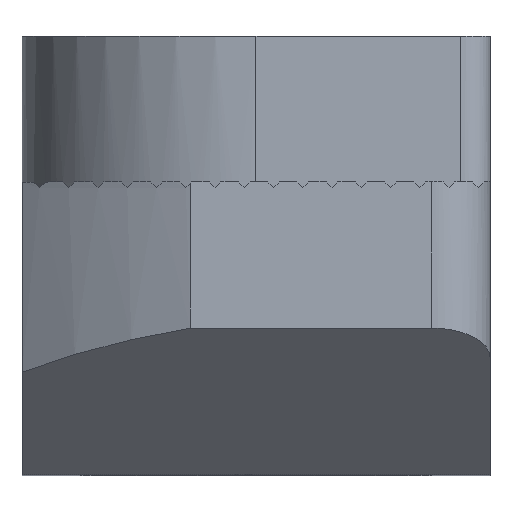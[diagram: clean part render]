
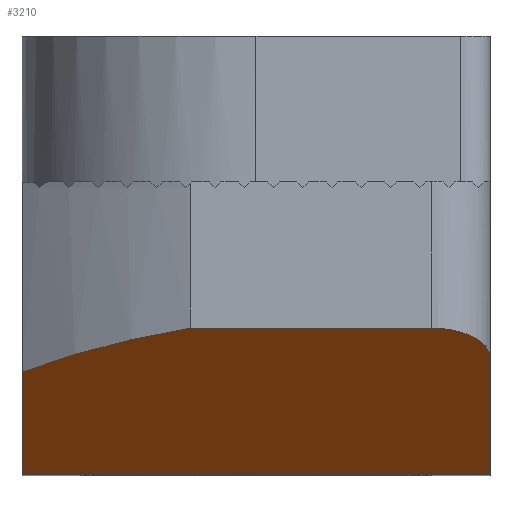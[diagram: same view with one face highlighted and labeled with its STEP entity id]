
A CAD part, top view. The second image highlights one B-rep face of the part: STEP entity #3210.
In plain terms, the highlighted planar face has unit normal (0, -0.894, 0.447).
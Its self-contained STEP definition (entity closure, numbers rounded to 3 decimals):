
#94 = ORIENTED_EDGE ( 'NONE', *, *, #3807, .T. ) ;
#107 = CARTESIAN_POINT ( 'NONE',  ( -4., -2.5, 9.5 ) ) ;
#181 = DIRECTION ( 'NONE',  ( 1., 0., 0. ) ) ;
#329 = DIRECTION ( 'NONE',  ( 0., 0.447, 0.894 ) ) ;
#424 = CARTESIAN_POINT ( 'NONE',  ( -1.122, -2.5, 9.5 ) ) ;
#506 = AXIS2_PLACEMENT_3D ( 'NONE', #649, #2265, #329 ) ;
#648 = EDGE_CURVE ( 'NONE', #3941, #2384, #1041, .T. ) ;
#649 = CARTESIAN_POINT ( 'NONE',  ( -4., -2.5, 9.5 ) ) ;
#702 = ORIENTED_EDGE ( 'NONE', *, *, #1306, .F. ) ;
#728 = CARTESIAN_POINT ( 'NONE',  ( -1.122, -2.5, 9.5 ) ) ;
#745 = VERTEX_POINT ( 'NONE', #1824 ) ;
#890 = CARTESIAN_POINT ( 'NONE',  ( 4., -3., 8.5 ) ) ;
#982 = EDGE_CURVE ( 'NONE', #2589, #2384, #2943, .T. ) ;
#996 = VECTOR ( 'NONE', #2070, 1000. ) ;
#1041 = LINE ( 'NONE', #107, #996 ) ;
#1105 = LINE ( 'NONE', #2876, #1170 ) ;
#1170 = VECTOR ( 'NONE', #3207, 1000. ) ;
#1245 = EDGE_CURVE ( 'NONE', #745, #2506, #3796, .T. ) ;
#1306 = EDGE_CURVE ( 'NONE', #745, #1326, #3602, .T. ) ;
#1326 = VERTEX_POINT ( 'NONE', #2181 ) ;
#1531 = ORIENTED_EDGE ( 'NONE', *, *, #982, .T. ) ;
#1535 = EDGE_CURVE ( 'NONE', #1326, #3941, #2658, .T. ) ;
#1824 = CARTESIAN_POINT ( 'NONE',  ( -4., -5., 4.5 ) ) ;
#1854 = CARTESIAN_POINT ( 'NONE',  ( -4., -2.5, 9.5 ) ) ;
#2018 = CARTESIAN_POINT ( 'NONE',  ( -3.127, -2.923, 8.655 ) ) ;
#2055 = CARTESIAN_POINT ( 'NONE',  ( 3., -2.5, 9.5 ) ) ;
#2070 = DIRECTION ( 'NONE',  ( 1., 0., 0. ) ) ;
#2151 = DIRECTION ( 'NONE',  ( 0., 0.447, 0.894 ) ) ;
#2181 = CARTESIAN_POINT ( 'NONE',  ( -4., -3.25, 8. ) ) ;
#2265 = DIRECTION ( 'NONE',  ( 0., 0.894, -0.447 ) ) ;
#2322 = CARTESIAN_POINT ( 'NONE',  ( -4., -3.25, 8. ) ) ;
#2324 = ORIENTED_EDGE ( 'NONE', *, *, #1535, .F. ) ;
#2384 = VERTEX_POINT ( 'NONE', #3868 ) ;
#2440 = CARTESIAN_POINT ( 'NONE',  ( -4., -5., 4.5 ) ) ;
#2506 = VERTEX_POINT ( 'NONE', #2696 ) ;
#2589 = VERTEX_POINT ( 'NONE', #890 ) ;
#2637 = CARTESIAN_POINT ( 'NONE',  ( -2.159, -2.67, 9.159 ) ) ;
#2658 =( BOUNDED_CURVE ( )  B_SPLINE_CURVE ( 3, ( #2322, #2018, #2637, #728 ),
 .UNSPECIFIED., .F., .F. ) 
 B_SPLINE_CURVE_WITH_KNOTS ( ( 4, 4 ),
 ( 5.64, 5.966 ),
 .UNSPECIFIED. ) 
 CURVE ( )  GEOMETRIC_REPRESENTATION_ITEM ( )  RATIONAL_B_SPLINE_CURVE ( ( 1., 0.991, 0.991, 1. ) ) 
 REPRESENTATION_ITEM ( '' )  );
#2681 = FACE_OUTER_BOUND ( 'NONE', #3670, .T. ) ;
#2696 = CARTESIAN_POINT ( 'NONE',  ( 4., -5., 4.5 ) ) ;
#2876 = CARTESIAN_POINT ( 'NONE',  ( 4., -2.5, 9.5 ) ) ;
#2943 =( BOUNDED_CURVE ( )  B_SPLINE_CURVE ( 3, ( #3612, #3294, #3932, #2055 ),
 .UNSPECIFIED., .F., .F. ) 
 B_SPLINE_CURVE_WITH_KNOTS ( ( 4, 4 ),
 ( 4.712, 6.283 ),
 .UNSPECIFIED. ) 
 CURVE ( )  GEOMETRIC_REPRESENTATION_ITEM ( )  RATIONAL_B_SPLINE_CURVE ( ( 1., 0.805, 0.805, 1. ) ) 
 REPRESENTATION_ITEM ( '' )  );
#3207 = DIRECTION ( 'NONE',  ( 0., 0.447, 0.894 ) ) ;
#3210 = ADVANCED_FACE ( 'NONE', ( #2681 ), #4142, .F. ) ;
#3294 = CARTESIAN_POINT ( 'NONE',  ( 4., -2.707, 9.086 ) ) ;
#3349 = ORIENTED_EDGE ( 'NONE', *, *, #648, .F. ) ;
#3474 = ORIENTED_EDGE ( 'NONE', *, *, #1245, .T. ) ;
#3597 = VECTOR ( 'NONE', #2151, 1000. ) ;
#3602 = LINE ( 'NONE', #1854, #3597 ) ;
#3612 = CARTESIAN_POINT ( 'NONE',  ( 4., -3., 8.5 ) ) ;
#3670 = EDGE_LOOP ( 'NONE', ( #94, #1531, #3349, #2324, #702, #3474 ) ) ;
#3755 = VECTOR ( 'NONE', #181, 1000. ) ;
#3796 = LINE ( 'NONE', #2440, #3755 ) ;
#3807 = EDGE_CURVE ( 'NONE', #2506, #2589, #1105, .T. ) ;
#3868 = CARTESIAN_POINT ( 'NONE',  ( 3., -2.5, 9.5 ) ) ;
#3932 = CARTESIAN_POINT ( 'NONE',  ( 3.586, -2.5, 9.5 ) ) ;
#3941 = VERTEX_POINT ( 'NONE', #424 ) ;
#4142 = PLANE ( 'NONE',  #506 ) ;
